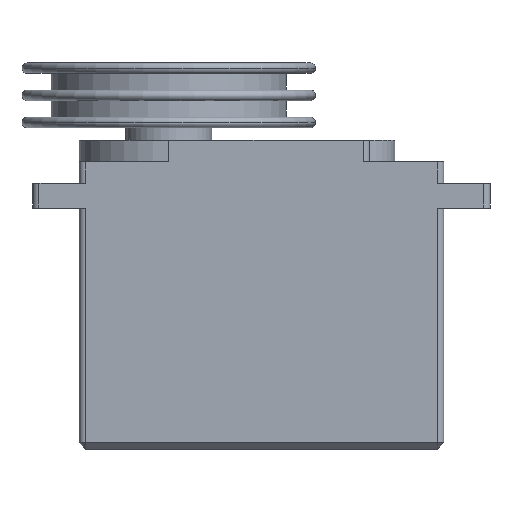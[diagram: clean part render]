
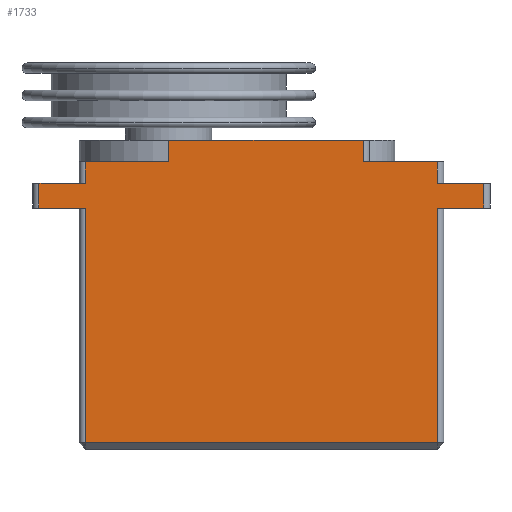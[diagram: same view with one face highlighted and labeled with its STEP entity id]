
A CAD part, left-side view. The second image highlights one B-rep face of the part: STEP entity #1733.
In plain terms, the highlighted planar face has unit normal (-1, 0, 0).
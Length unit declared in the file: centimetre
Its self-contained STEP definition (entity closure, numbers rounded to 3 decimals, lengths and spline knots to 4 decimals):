
#433=VERTEX_POINT('',#5786);
#435=VERTEX_POINT('',#5789);
#444=VERTEX_POINT('',#5807);
#445=VERTEX_POINT('',#5808);
#450=VERTEX_POINT('',#5819);
#488=VERTEX_POINT('',#5920);
#490=VERTEX_POINT('',#5924);
#492=VERTEX_POINT('',#5930);
#495=VERTEX_POINT('',#5939);
#498=VERTEX_POINT('',#5949);
#503=VERTEX_POINT('',#5971);
#508=VERTEX_POINT('',#5981);
#513=VERTEX_POINT('',#5999);
#514=VERTEX_POINT('',#6003);
#515=VERTEX_POINT('',#6005);
#516=VERTEX_POINT('',#6007);
#616=EDGE_CURVE('',#435,#433,#2901,.T.);
#626=EDGE_CURVE('',#445,#444,#2901,.T.);
#635=EDGE_CURVE('',#435,#450,#2908,.T.);
#692=EDGE_CURVE('',#490,#488,#2946,.T.);
#695=EDGE_CURVE('',#492,#490,#2947,.T.);
#700=EDGE_CURVE('',#495,#492,#2950,.T.);
#704=EDGE_CURVE('',#445,#498,#2954,.T.);
#710=EDGE_CURVE('',#495,#498,#2957,.T.);
#722=EDGE_CURVE('',#508,#503,#2964,.T.);
#731=EDGE_CURVE('',#513,#433,#2970,.T.);
#732=EDGE_CURVE('',#488,#514,#2971,.T.);
#733=EDGE_CURVE('',#515,#444,#2972,.T.);
#734=EDGE_CURVE('',#515,#450,#2973,.T.);
#735=EDGE_CURVE('',#513,#516,#2957,.T.);
#736=EDGE_CURVE('',#503,#516,#2974,.T.);
#737=EDGE_CURVE('',#514,#508,#2975,.T.);
#1078=ORIENTED_EDGE('',*,*,#732,.F.);
#1079=ORIENTED_EDGE('',*,*,#692,.F.);
#1080=ORIENTED_EDGE('',*,*,#695,.F.);
#1081=ORIENTED_EDGE('',*,*,#700,.F.);
#1082=ORIENTED_EDGE('',*,*,#710,.T.);
#1083=ORIENTED_EDGE('',*,*,#704,.F.);
#1084=ORIENTED_EDGE('',*,*,#626,.T.);
#1085=ORIENTED_EDGE('',*,*,#733,.F.);
#1086=ORIENTED_EDGE('',*,*,#734,.T.);
#1087=ORIENTED_EDGE('',*,*,#635,.F.);
#1088=ORIENTED_EDGE('',*,*,#616,.T.);
#1089=ORIENTED_EDGE('',*,*,#731,.F.);
#1090=ORIENTED_EDGE('',*,*,#735,.T.);
#1091=ORIENTED_EDGE('',*,*,#736,.F.);
#1092=ORIENTED_EDGE('',*,*,#722,.F.);
#1093=ORIENTED_EDGE('',*,*,#737,.F.);
#1459=EDGE_LOOP('',(#1078,#1079,#1080,#1081,#1082,#1083,#1084,#1085,#1086,
#1087,#1088,#1089,#1090,#1091,#1092,#1093));
#1596=FACE_BOUND('',#1459,.T.);
#1733=ADVANCED_FACE('',(#1596),#4558,.T.);
#2901=LINE('',#5788,#4347);
#2908=LINE('',#5822,#4354);
#2946=LINE('',#5925,#4392);
#2947=LINE('',#5931,#4393);
#2950=LINE('',#5940,#4396);
#2954=LINE('',#5948,#4400);
#2957=LINE('',#5959,#4403);
#2964=LINE('',#5982,#4410);
#2970=LINE('',#6000,#4416);
#2971=LINE('',#6002,#4417);
#2972=LINE('',#6004,#4418);
#2973=LINE('',#6006,#4419);
#2974=LINE('',#6008,#4420);
#2975=LINE('',#6009,#4421);
#4073=AXIS2_PLACEMENT_3D('',#6001,#5101,$);
#4347=VECTOR('',#4917,1.);
#4354=VECTOR('',#4944,1.);
#4392=VECTOR('',#5025,1.);
#4393=VECTOR('',#5031,1.);
#4396=VECTOR('',#5040,1.);
#4400=VECTOR('',#5047,1.);
#4403=VECTOR('',#5059,1.);
#4410=VECTOR('',#5081,1.);
#4416=VECTOR('',#5100,1.);
#4417=VECTOR('',#5102,1.);
#4418=VECTOR('',#5103,1.);
#4419=VECTOR('',#5104,1.);
#4420=VECTOR('',#5105,1.);
#4421=VECTOR('',#5106,1.);
#4558=PLANE('',#4073);
#4917=DIRECTION('',(0.,1.,0.));
#4944=DIRECTION('',(0.,0.,1.));
#5025=DIRECTION('',(0.,0.,-1.));
#5031=DIRECTION('',(0.,1.,0.));
#5040=DIRECTION('',(0.,0.,-1.));
#5047=DIRECTION('',(0.,0.,-1.));
#5059=DIRECTION('',(0.,1.,0.));
#5081=DIRECTION('',(0.,1.,0.));
#5100=DIRECTION('',(0.,0.,1.));
#5101=DIRECTION('',(-1.,0.,0.));
#5102=DIRECTION('',(0.,1.,0.));
#5103=DIRECTION('',(0.,0.,-1.));
#5104=DIRECTION('',(0.,1.,0.));
#5105=DIRECTION('',(0.,0.,1.));
#5106=DIRECTION('',(0.,0.,1.));
#5786=CARTESIAN_POINT('',(-2.9,5.8,4.65));
#5788=CARTESIAN_POINT('',(-2.9,5.9,4.65));
#5789=CARTESIAN_POINT('',(-2.9,4.45,4.65));
#5807=CARTESIAN_POINT('',(-2.9,1.3,4.65));
#5808=CARTESIAN_POINT('',(-2.9,0.1,4.65));
#5819=CARTESIAN_POINT('',(-2.9,4.45,5.));
#5822=CARTESIAN_POINT('',(-2.9,4.45,4.65));
#5920=CARTESIAN_POINT('',(-2.9,0.1,0.1));
#5924=CARTESIAN_POINT('',(-2.9,0.1,3.9));
#5925=CARTESIAN_POINT('',(-2.9,0.1,0.));
#5930=CARTESIAN_POINT('',(-2.9,-0.65,3.9));
#5931=CARTESIAN_POINT('',(-2.9,2.95,3.9));
#5939=CARTESIAN_POINT('',(-2.9,-0.65,4.3));
#5940=CARTESIAN_POINT('',(-2.9,-0.65,1.95));
#5948=CARTESIAN_POINT('',(-2.9,0.1,2.15));
#5949=CARTESIAN_POINT('',(-2.9,0.1,4.3));
#5959=CARTESIAN_POINT('',(-2.9,6.65,4.3));
#5971=CARTESIAN_POINT('',(-2.9,6.55,3.9));
#5981=CARTESIAN_POINT('',(-2.9,5.8,3.9));
#5982=CARTESIAN_POINT('',(-2.9,2.95,3.9));
#5999=CARTESIAN_POINT('',(-2.9,5.8,4.3));
#6000=CARTESIAN_POINT('',(-2.9,5.8,2.15));
#6001=CARTESIAN_POINT('',(-2.9,2.95,0.));
#6002=CARTESIAN_POINT('',(-2.9,2.95,0.1));
#6003=CARTESIAN_POINT('',(-2.9,5.8,0.1));
#6004=CARTESIAN_POINT('',(-2.9,1.3,2.325));
#6005=CARTESIAN_POINT('',(-2.9,1.3,5.));
#6006=CARTESIAN_POINT('',(-2.9,1.2,5.));
#6007=CARTESIAN_POINT('',(-2.9,6.55,4.3));
#6008=CARTESIAN_POINT('',(-2.9,6.55,1.95));
#6009=CARTESIAN_POINT('',(-2.9,5.8,0.));
